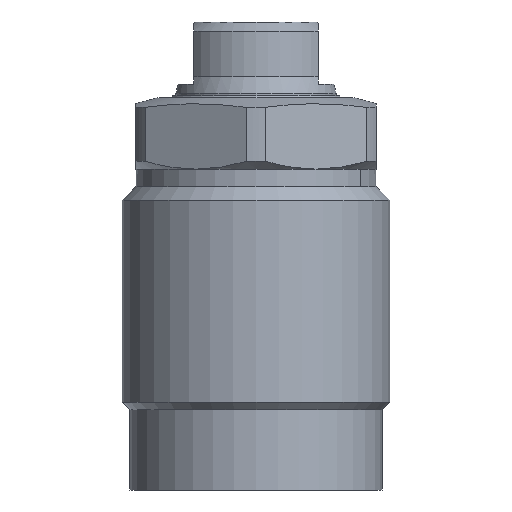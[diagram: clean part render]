
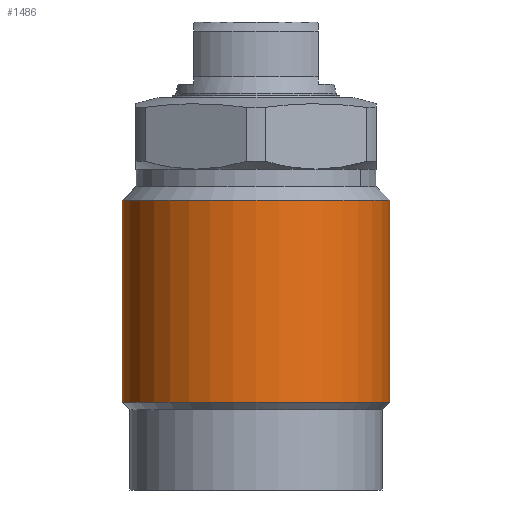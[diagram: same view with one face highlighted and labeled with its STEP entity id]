
A CAD part, front view. The second image highlights one B-rep face of the part: STEP entity #1486.
In plain terms, the highlighted cylindrical face has radius 15 mm (diameter 30 mm), a partial arc.
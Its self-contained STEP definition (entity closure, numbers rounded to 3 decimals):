
#1423=CARTESIAN_POINT('',(-15.0,0.0,-34.15));
#1424=VERTEX_POINT('',#1423);
#1432=CARTESIAN_POINT('',(15.0,0.0,-34.15));
#1433=VERTEX_POINT('',#1432);
#1440=CARTESIAN_POINT('',(-0.0,0.0,-34.15));
#1441=DIRECTION('',(0.0,0.0,1.0));
#1442=DIRECTION('',(1.0,0.0,-0.0));
#1443=AXIS2_PLACEMENT_3D('',#1440,#1441,#1442);
#1444=CIRCLE('',#1443,15.0);
#1445=EDGE_CURVE('no 2292',#1424,#1433,#1444,.T.);
#1455=CARTESIAN_POINT('',(-15.0,0.0,-11.5));
#1456=VERTEX_POINT('',#1455);
#1457=CARTESIAN_POINT('',(-15.0,0.0,-34.15));
#1458=DIRECTION('',(-0.0,-0.0,1.0));
#1459=VECTOR('',#1458,1.0);
#1460=LINE('',#1457,#1459);
#1461=EDGE_CURVE('no 2302',#1424,#1456,#1460,.T.);
#1462=ORIENTED_EDGE('',*,*,#1461,.F.);
#1463=ORIENTED_EDGE('',*,*,#1445,.T.);
#1464=CARTESIAN_POINT('',(15.0,0.0,-11.5));
#1465=VERTEX_POINT('',#1464);
#1466=CARTESIAN_POINT('',(15.0,0.0,-34.15));
#1467=DIRECTION('',(0.0,0.0,1.0));
#1468=VECTOR('',#1467,1.0);
#1469=LINE('',#1466,#1468);
#1470=EDGE_CURVE('no 2310',#1433,#1465,#1469,.T.);
#1471=ORIENTED_EDGE('',*,*,#1470,.T.);
#1472=CARTESIAN_POINT('',(-0.0,0.0,-11.5));
#1473=DIRECTION('',(0.0,0.0,1.0));
#1474=DIRECTION('',(1.0,0.0,-0.0));
#1475=AXIS2_PLACEMENT_3D('',#1472,#1473,#1474);
#1476=CIRCLE('',#1475,15.0);
#1477=EDGE_CURVE('no 2314',#1456,#1465,#1476,.T.);
#1478=ORIENTED_EDGE('',*,*,#1477,.F.);
#1479=EDGE_LOOP('',(#1462,#1463,#1471,#1478));
#1480=FACE_OUTER_BOUND('',#1479,.T.);
#1481=CARTESIAN_POINT('',(0.0,0.0,-1.097));
#1482=DIRECTION('',(0.0,0.0,1.0));
#1483=DIRECTION('',(0.0,1.0,-0.0));
#1484=AXIS2_PLACEMENT_3D('',#1481,#1482,#1483);
#1485=CYLINDRICAL_SURFACE('',#1484,15.0);
#1486=ADVANCED_FACE('no 2295',(#1480),#1485,.T.);
